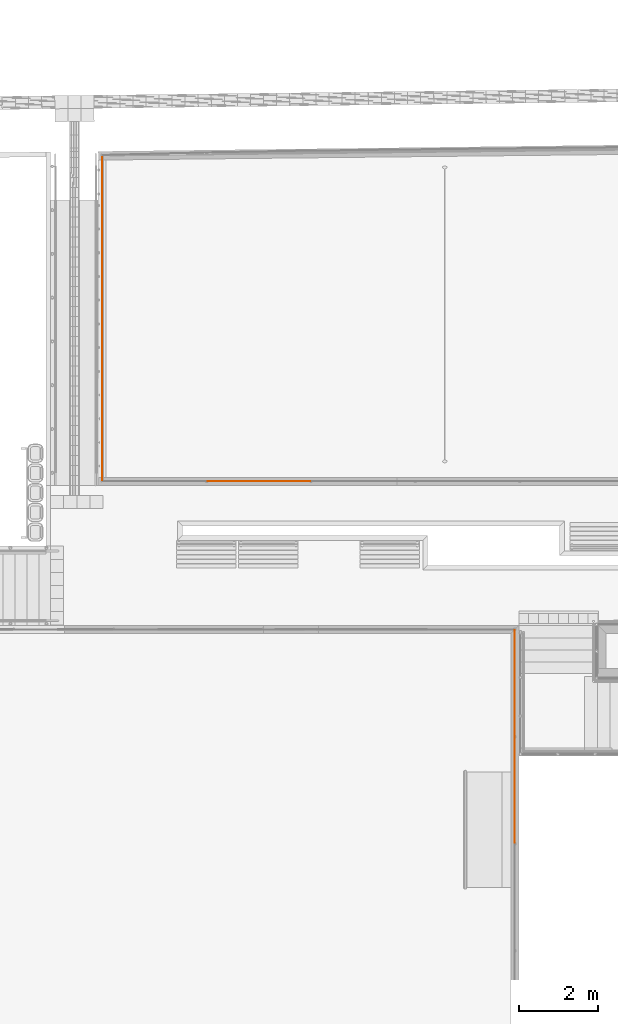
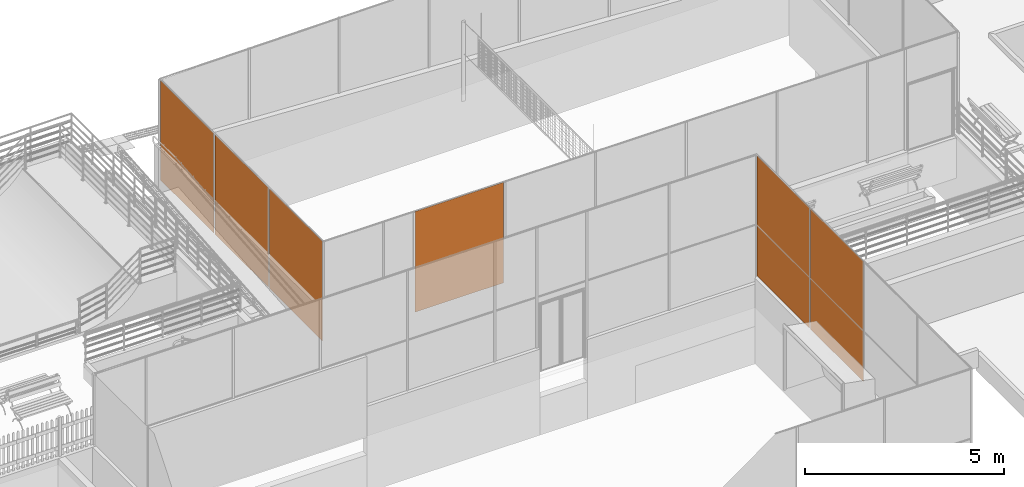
# One storey, part 155 of 237: 6 proxies.
"""IFC2X3 building model written with IfcOpenShell, lengths in millimetres."""

from ifc_helpers import new_model, entity, si_unit, converted_unit, derived_unit, money_unit, direction, frame, origin_with_axes, place, context, subcontext, project, spatial, open_shell, surface_model, source, transform, mapped, type_object, element, save


model = new_model("IFC2X3")

# Units and contexts
model_context = context("Model", 3, precision=0.01, world=origin_with_axes(), true_north=direction((0.0, 1.0)))
body_context = subcontext(model_context, "Body", "Model", "MODEL_VIEW")
ifc_project = project(units=[si_unit("LENGTHUNIT", "METRE", prefix="MILLI"), si_unit("AREAUNIT", "SQUARE_METRE"), si_unit("VOLUMEUNIT", "CUBIC_METRE"), converted_unit("PLANEANGLEUNIT", "DEGREE", entity("IfcPlaneAngleMeasure", 0.0174532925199), si_unit("PLANEANGLEUNIT", "RADIAN"), dimensions=[0, 0, 0, 0, 0, 0, 0]), money_unit("USD"), converted_unit("TIMEUNIT", "Year", entity("IfcTimeMeasure", 31556926.0), si_unit("TIMEUNIT", "SECOND"), dimensions=[0, 0, 1, 0, 0, 0, 0]), si_unit("MASSUNIT", "GRAM", prefix="KILO"), si_unit("THERMODYNAMICTEMPERATUREUNIT", "DEGREE_CELSIUS"), si_unit("LUMINOUSINTENSITYUNIT", "LUMEN"), si_unit("ENERGYUNIT", "JOULE", prefix="MEGA"), derived_unit("THERMALCONDUCTANCEUNIT", [(si_unit("POWERUNIT", "WATT"), 1), (si_unit("LENGTHUNIT", "METRE"), -1), (si_unit("THERMODYNAMICTEMPERATUREUNIT", "KELVIN"), -1)]), derived_unit("SPECIFICHEATCAPACITYUNIT", [(si_unit("ENERGYUNIT", "JOULE"), 1), (si_unit("MASSUNIT", "GRAM", prefix="KILO"), -1), (si_unit("THERMODYNAMICTEMPERATUREUNIT", "KELVIN"), -1)]), derived_unit("MASSDENSITYUNIT", [(si_unit("MASSUNIT", "GRAM", prefix="KILO"), 1), (si_unit("VOLUMEUNIT", "CUBIC_METRE"), -1)])], contexts=[model_context])

# Site, building, storey
site_placement = place(None, origin_with_axes())
site = spatial("IfcSite", under=ifc_project, at=site_placement, Name="Local", CompositionType="ELEMENT")
building_placement = place(site_placement, origin_with_axes())
building = spatial("IfcBuilding", under=site, at=building_placement, Name="Construção", CompositionType="ELEMENT")
storey_placement = place(building_placement, origin_with_axes())
storey = spatial("IfcBuildingStorey", under=building, at=storey_placement, Name="Pavimento Térreo", CompositionType="ELEMENT", Elevation=0.0)

# Proxies
building_element_proxy_type = type_object("IfcBuildingElementProxyType", Name="Tela metalica1", PredefinedType="NOTDEFINED")
shared_shape_1 = source(origin_with_axes(), body_context, "Body", "SurfaceModel", [
    surface_model("IfcShellBasedSurfaceModel", [(2612.77479528, 0.0, 3061.09168656), (0.0, 597.005968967, 3061.09168656), (0.0, 597.005968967, 0.0), (2612.77479528, 0.0, 0.0)], [open_shell([[[0, 1, 2, 3]]])]),
])
for number, where, z_axis, x_axis, name in (
    (1, (68850.8410555, 27460.1139458, -3388.30219833), (0.0, 0.0, 1.0), (-0.222753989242, 0.974874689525, 0.0), "Objeto-0044"),
    (2, (68850.8410555, 30190.2274243, -3388.30219833), (0.0, 0.0, 1.0), (-0.222753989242, 0.974874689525, 0.0), "Objeto-0044"),
    (3, (68850.8410555, 32920.3409029, -3388.30219833), (0.0, 0.0, 1.0), (-0.222753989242, 0.974874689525, 0.0), "Objeto-0044"),
):
    element("IfcBuildingElementProxy", number, at=place(storey_placement, frame(where, z_axis=z_axis, x_axis=x_axis)), inside=storey, type_object=building_element_proxy_type, Name=name, context=body_context, shape_type="MappedRepresentation", body=[
        mapped(shared_shape_1, transform((0.0, 0.0, 0.0))),
    ])
shared_shape_2 = source(origin_with_axes(), body_context, "Body", "SurfaceModel", [
    surface_model("IfcShellBasedSurfaceModel", [(2513.98604708, 0.0, 3085.24752277), (0.0, 574.433234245, 3085.24752277), (0.0, 574.433234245, 0.0), (2513.98604708, 0.0, 0.0)], [open_shell([[[0, 1, 2, 3]]])]),
])
proxy_placement = place(storey_placement, frame((71050.5710029, 26739.0884267, -3412.65129315), z_axis=(0.0, 0.0, 1.0), x_axis=(0.974874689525, 0.222753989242, 0.0)))
element("IfcBuildingElementProxy", 4, at=proxy_placement, inside=storey, type_object=building_element_proxy_type, Name="Objeto-0044", context=body_context, shape_type="MappedRepresentation", body=[
    mapped(shared_shape_2, transform((0.0, 0.0, 0.0))),
])
shared_shape_3 = source(origin_with_axes(), body_context, "Body", "SurfaceModel", [
    surface_model("IfcShellBasedSurfaceModel", [(2584.7166083, 0.0, 3698.31684606), (0.0, 592.777300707, 3698.31684606), (0.0, 592.777300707, 0.0), (2584.7166083, 0.0, 0.0)], [open_shell([[[0, 1, 2, 3]]])]),
])
for number, where, z_axis, x_axis, name in (
    (5, (79241.3419043, 18311.2698349, -2721.89460916), (0.0, 0.0, 1.0), (-0.223510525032, 0.974701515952, 0.0), "Objeto-0044"),
    (6, (79242.2887609, 21014.1453535, -2721.89460916), (0.0, 0.0, 1.0), (-0.223510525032, 0.974701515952, 0.0), "Objeto-0044"),
):
    element("IfcBuildingElementProxy", number, at=place(storey_placement, frame(where, z_axis=z_axis, x_axis=x_axis)), inside=storey, type_object=building_element_proxy_type, Name=name, context=body_context, shape_type="MappedRepresentation", body=[
        mapped(shared_shape_3, transform((0.0, 0.0, 0.0))),
    ])

save(model, "model.ifc")
